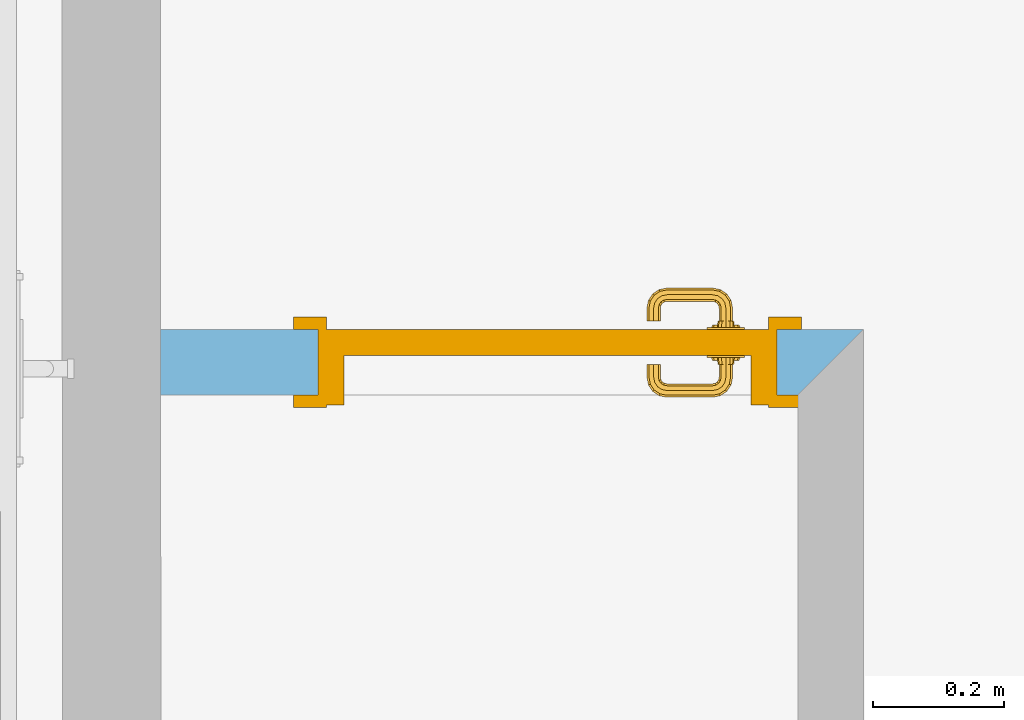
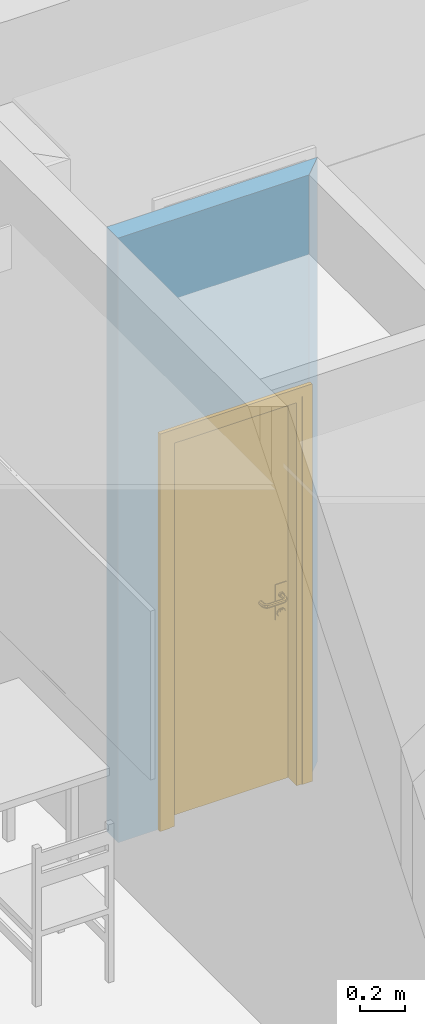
# One storey, part 59 of 194: 1 door, 1 opening, plus 1 element that does not belong to this part.
"""IFC2X3 building model written with IfcOpenShell, lengths in millimetres."""

from ifc_helpers import new_model, entity, si_unit, converted_unit, derived_unit, money_unit, direction, frame, origin_with_axes, origin_2d_with_axis, place, context, subcontext, project, spatial, polyline, rectangle, outline, extrude, open_shell, faceted_brep, surface_model, material, layer, layer_set, layer_usage, type_object, element, fill, save


model = new_model("IFC2X3")

# Units and contexts
model_context = context("Model", 3, precision=1e-05, world=origin_with_axes(), true_north=direction((0.0, 1.0)))
body_context = subcontext(model_context, "Body", "Model", "MODEL_VIEW")
ifc_project = project(units=[si_unit("LENGTHUNIT", "METRE", prefix="MILLI"), si_unit("AREAUNIT", "SQUARE_METRE"), si_unit("VOLUMEUNIT", "CUBIC_METRE"), converted_unit("PLANEANGLEUNIT", "DEGREE", entity("IfcPlaneAngleMeasure", 0.0174532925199), si_unit("PLANEANGLEUNIT", "RADIAN"), dimensions=[0, 0, 0, 0, 0, 0, 0]), si_unit("SOLIDANGLEUNIT", "STERADIAN"), money_unit("EUR"), converted_unit("TIMEUNIT", "Year", entity("IfcTimeMeasure", 31556926.0), si_unit("TIMEUNIT", "SECOND"), dimensions=[0, 0, 1, 0, 0, 0, 0]), si_unit("MASSUNIT", "GRAM", prefix="KILO"), si_unit("THERMODYNAMICTEMPERATUREUNIT", "DEGREE_CELSIUS"), si_unit("LUMINOUSINTENSITYUNIT", "LUMEN"), si_unit("ENERGYUNIT", "JOULE", prefix="MEGA"), derived_unit("THERMALCONDUCTANCEUNIT", [(si_unit("POWERUNIT", "WATT"), 1), (si_unit("LENGTHUNIT", "METRE"), -1), (si_unit("THERMODYNAMICTEMPERATUREUNIT", "KELVIN"), -1)]), derived_unit("SPECIFICHEATCAPACITYUNIT", [(si_unit("ENERGYUNIT", "JOULE"), 1), (si_unit("MASSUNIT", "GRAM", prefix="KILO"), -1), (si_unit("THERMODYNAMICTEMPERATUREUNIT", "KELVIN"), -1)]), derived_unit("MASSDENSITYUNIT", [(si_unit("MASSUNIT", "GRAM", prefix="KILO"), 1), (si_unit("VOLUMEUNIT", "CUBIC_METRE"), -1)])], contexts=[model_context])

# Site, building, storey
site_placement = place(None, origin_with_axes())
site = spatial("IfcSite", under=ifc_project, at=site_placement, Name="Site", CompositionType="ELEMENT")
building_placement = place(site_placement, origin_with_axes())
building = spatial("IfcBuilding", under=site, at=building_placement, Name="Building", CompositionType="ELEMENT")
storey_placement = place(building_placement, frame((0.0, 0.0, 3000.0), z_axis=(0.0, 0.0, 1.0), x_axis=(1.0, 0.0, 0.0)))
storey = spatial("IfcBuildingStorey", under=building, at=storey_placement, Name="2 KORRUS", CompositionType="ELEMENT", Elevation=3000.0)

# Wall, opening, door
ifc_material = material(Name="Kivi -Ol.Olev Konstruktsioon")
ifc_layer = layer(ifc_material, 100.0, ventilated="UNKNOWN")
ifc_layer_set = layer_set([ifc_layer], Name="ol.olev ss 100")
ifc_layer_usage = layer_usage(ifc_layer_set, "AXIS2", "POSITIVE", -100.0)
wall_type = type_object("IfcWallType", Name="SW - 022", PredefinedType="NOTDEFINED")
wall_placement = place(storey_placement, frame((70154.145354, 38994.6064083, 0.0), z_axis=(0.0, 0.0, 1.0), x_axis=(1.0, 0.0, 0.0)))
wall = element("IfcWallStandardCase", 1, at=wall_placement, inside=storey, type_object=wall_type, material=ifc_layer_usage, Name="ol.olev ss 100", context=body_context, shape_type="SweptSolid", body=[
    extrude(outline(polyline([(0.0786475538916, -100.0), (971.875805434, -100.0), (1071.87580543, 0.0), (3.41060513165e-10, 0.0), (0.0786475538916, -100.0)])), origin_with_axes(), (0.0, 0.0, 1.0), 3250.0),
])
opening_placement = place(wall_placement, frame((590.053432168, 0.0, 0.0), z_axis=(0.0, 0.0, 1.0), x_axis=(1.0, 0.0, 0.0)))
opening = element("IfcOpeningElement", 2, at=opening_placement, cuts=wall, Name="Siseuks * Door 22", context=body_context, shape_type="SweptSolid", body=[
    extrude(rectangle(XDim=699.999999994, YDim=2100.0, at=origin_2d_with_axis()), frame((0.0, -100.0, 1050.0), z_axis=(0.0, -1.0, 0.0), x_axis=(-1.0, 0.0, 0.0)), (0.0, 0.0, -1.0), 300.000000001),
    extrude(rectangle(XDim=773.999999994, YDim=2137.0, at=origin_2d_with_axis()), frame((0.0, -100.0, 1068.5), z_axis=(0.0, -1.0, 0.0), x_axis=(-1.0, 0.0, 0.0)), (0.0, 0.0, 1.0), 100.0),
    extrude(rectangle(XDim=773.999999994, YDim=2137.0, at=origin_2d_with_axis()), frame((0.0, 0.0, 1068.5), z_axis=(0.0, 1.0, 0.0), x_axis=(-1.0, 0.0, 0.0)), (0.0, 0.0, 1.0), 100.0),
])
door_style = type_object("IfcDoorStyle", Name="SU-B231B   700×2\xa0100", ConstructionType="NOTDEFINED", OperationType="SINGLE_SWING_LEFT", ParameterTakesPrecedence=False, Sizeable=False)
door_placement = place(opening_placement, frame((-349.999999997, 0.0, 0.0), z_axis=(0.0, 0.0, 1.0), x_axis=(1.0, 0.0, 0.0)))
door = element("IfcDoor", 3, at=door_placement, inside=storey, type_object=door_style, Name="Siseuks * Door 22", OverallHeight=2100.0, OverallWidth=700.0, context=body_context, shape_type="SurfaceModel", body=[
    faceted_brep([(736.999999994, -119.0, 0.0), (686.999999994, -119.0, 0.0), (686.999999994, -100.0, 0.0), (736.999999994, -100.0, 0.0), (736.999999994, -119.0, 2137.0), (686.999999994, -119.0, 2087.0), (686.999999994, -100.0, 2087.0), (736.999999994, -100.0, 2137.0)], [[[0, 1, 2, 3]], [[0, 4, 5, 1]], [[1, 5, 6, 2]], [[3, 2, 6, 7]], [[4, 0, 3, 7]], [[5, 4, 7, 6]]]),
    faceted_brep([(-37.0, -119.0, 2137.0), (13.0, -119.0, 2087.0), (13.0, -100.0, 2087.0), (-37.0, -100.0, 2137.0), (-37.0, -119.0, 0.0), (13.0, -119.0, 0.0), (13.0, -100.0, 0.0), (-37.0, -100.0, 0.0)], [[[0, 1, 2, 3]], [[0, 4, 5, 1]], [[1, 5, 6, 2]], [[3, 2, 6, 7]], [[4, 0, 3, 7]], [[5, 4, 7, 6]]]),
    faceted_brep([(736.999999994, -119.0, 2137.0), (686.999999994, -119.0, 2087.0), (686.999999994, -100.0, 2087.0), (736.999999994, -100.0, 2137.0), (-37.0, -119.0, 2137.0), (13.0, -119.0, 2087.0), (13.0, -100.0, 2087.0), (-37.0, -100.0, 2137.0)], [[[0, 1, 2, 3]], [[0, 4, 5, 1]], [[1, 5, 6, 2]], [[3, 2, 6, 7]], [[4, 0, 3, 7]], [[5, 4, 7, 6]]]),
    faceted_brep([(736.999999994, 19.0000000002, 0.0), (736.999999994, 0.0, 0.0), (686.999999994, 0.0, 0.0), (686.999999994, 19.0000000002, 0.0), (736.999999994, 19.0000000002, 2137.0), (736.999999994, 0.0, 2137.0), (686.999999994, 0.0, 2087.0), (686.999999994, 19.0000000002, 2087.0)], [[[0, 1, 2, 3]], [[4, 5, 1, 0]], [[1, 5, 6, 2]], [[3, 2, 6, 7]], [[0, 3, 7, 4]], [[7, 6, 5, 4]]]),
    faceted_brep([(-37.0, 19.0000000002, 2137.0), (-37.0, 0.0, 2137.0), (13.0, 0.0, 2087.0), (13.0, 19.0000000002, 2087.0), (-37.0, 19.0000000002, 0.0), (-37.0, 0.0, 0.0), (13.0, 0.0, 0.0), (13.0, 19.0000000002, 0.0)], [[[0, 1, 2, 3]], [[4, 5, 1, 0]], [[1, 5, 6, 2]], [[3, 2, 6, 7]], [[0, 3, 7, 4]], [[7, 6, 5, 4]]]),
    faceted_brep([(736.999999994, 19.0000000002, 2137.0), (736.999999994, 0.0, 2137.0), (686.999999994, 0.0, 2087.0), (686.999999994, 19.0000000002, 2087.0), (-37.0, 19.0000000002, 2137.0), (-37.0, 0.0, 2137.0), (13.0, 0.0, 2087.0), (13.0, 19.0000000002, 2087.0)], [[[0, 1, 2, 3]], [[4, 5, 1, 0]], [[1, 5, 6, 2]], [[3, 2, 6, 7]], [[0, 3, 7, 4]], [[7, 6, 5, 4]]]),
    faceted_brep([(659.999999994, -40.0, 0.0), (659.999999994, -115.0, 0.0), (659.999999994, -115.0, 2060.0), (659.999999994, -40.0, 2060.0), (671.999999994, -40.0, 0.0), (671.999999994, 0.0, 0.0), (699.999999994, 0.0, 0.0), (699.999999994, -115.0, 0.0), (699.999999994, -115.0, 2060.0), (671.999999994, -40.0, 2060.0), (699.999999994, 0.0, 2060.0), (671.999999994, 0.0, 2060.0)], [[[0, 1, 2, 3]], [[4, 5, 6, 7, 1, 0]], [[1, 7, 8, 2]], [[9, 3, 2, 8, 10, 11]], [[9, 4, 0, 3]], [[11, 5, 4, 9]], [[11, 10, 6, 5]], [[6, 10, 8, 7]]]),
    faceted_brep([(28.0, -40.0, 2060.0), (28.0, 0.0, 2060.0), (0.0, 0.0, 2060.0), (0.0, -115.0, 2060.0), (40.0, -115.0, 2060.0), (40.0, -40.0, 2060.0), (28.0, -40.0, 0.0), (28.0, 0.0, 0.0), (0.0, 0.0, 0.0), (0.0, -115.0, 0.0), (40.0, -115.0, 0.0), (40.0, -40.0, 0.0)], [[[0, 1, 2, 3, 4, 5]], [[0, 6, 7, 1]], [[7, 8, 2, 1]], [[2, 8, 9, 3]], [[3, 9, 10, 4]], [[5, 4, 10, 11]], [[5, 11, 6, 0]], [[6, 11, 10, 9, 8, 7]]]),
    faceted_brep([(671.999999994, 0.0, 2072.0), (28.0, 0.0, 2072.0), (28.0, 0.0, 2060.0), (0.0, 0.0, 2060.0), (0.0, 0.0, 2100.0), (699.999999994, 0.0, 2100.0), (699.999999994, 0.0, 2060.0), (671.999999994, 0.0, 2060.0), (671.999999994, -40.0, 2072.0), (28.0, -40.0, 2072.0), (28.0, -40.0, 2060.0), (40.0, -40.0, 2060.0), (40.0, -115.0, 2060.0), (0.0, -115.0, 2060.0), (0.0, -115.0, 2100.0), (699.999999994, -115.0, 2100.0), (699.999999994, -115.0, 2060.0), (671.999999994, -40.0, 2060.0), (659.999999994, -115.0, 2060.0), (659.999999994, -40.0, 2060.0)], [[[0, 1, 2, 3, 4, 5, 6, 7]], [[0, 8, 9, 1]], [[1, 9, 10, 2]], [[10, 11, 12, 13, 3, 2]], [[4, 3, 13, 14]], [[5, 4, 14, 15]], [[6, 5, 15, 16]], [[17, 7, 6, 16, 18, 19]], [[7, 17, 8, 0]], [[10, 9, 8, 17, 19, 11]], [[19, 18, 12, 11]], [[12, 18, 16, 15, 14, 13]]]),
    faceted_brep([(650.499999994, -40.0, 1060.0), (593.499999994, -40.0, 1060.0), (593.499999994, -42.9999999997, 1060.0), (650.499999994, -42.9999999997, 1060.0), (650.499999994, -40.0, 870.0), (593.499999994, -40.0, 870.0), (593.499999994, -42.9999999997, 870.0), (650.499999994, -42.9999999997, 870.0)], [[[0, 1, 2, 3]], [[0, 4, 5, 1]], [[1, 5, 6, 2]], [[3, 2, 6, 7]], [[4, 0, 3, 7]], [[5, 4, 7, 6]]]),
    surface_model("IfcShellBasedSurfaceModel", [(611.999999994, -52.9999999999, 1000.0), (614.928932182, -52.9999999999, 992.928932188), (614.928932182, -72.3035606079, 992.928932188), (611.999999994, -72.0150859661, 1000.0), (621.999999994, -52.9999999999, 990.0), (621.999999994, -73.0000000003, 990.0), (613.816790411, -77.8946748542, 992.928932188), (611.057796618, -76.7518622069, 1000.0), (614.928932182, -52.9999999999, 1007.07106781), (614.928932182, -72.3035606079, 1007.07106781), (629.071067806, -52.9999999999, 992.928932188), (629.071067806, -73.6964393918, 992.928932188), (620.477590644, -80.6536686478, 990.0), (611.044179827, -82.0441798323, 992.928932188), (608.932537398, -79.9325374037, 1000.0), (613.816790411, -77.8946748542, 1007.07106781), (621.999999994, -52.9999999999, 1010.0), (621.999999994, -73.0000000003, 1010.0), (631.999999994, -52.9999999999, 1000.0), (631.999999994, -73.9849140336, 1000.0), (627.138390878, -83.4126624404, 992.928932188), (616.142135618, -87.1421356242, 990.0), (606.894674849, -84.8167904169, 992.928932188), (605.751862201, -82.0577966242, 1000.0), (611.044179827, -82.0441798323, 1007.07106781), (620.477590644, -80.6536686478, 1010.0), (629.071067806, -52.9999999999, 1007.07106781), (629.071067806, -73.6964393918, 1007.07106781), (629.89738467, -84.5554750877, 1000.0), (621.240091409, -92.2400914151, 992.928932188), (609.653668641, -91.4775906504, 990.0), (601.303560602, -85.9289321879, 992.928932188), (601.015085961, -82.9999999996, 1000.0), (606.894674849, -84.8167904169, 1007.07106781), (616.142135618, -87.1421356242, 1010.0), (627.138390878, -83.4126624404, 1007.07106781), (623.351733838, -94.3517338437, 1000.0), (612.412662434, -98.1383908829, 992.928932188), (601.999999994, -92.9999999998, 990.0), (532.696439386, -85.9289321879, 992.928932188), (532.984914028, -82.9999999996, 1000.0), (601.303560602, -85.9289321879, 1007.07106781), (609.653668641, -91.4775906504, 1010.0), (621.240091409, -92.2400914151, 1007.07106781), (613.555475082, -100.897384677, 1000.0), (602.696439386, -100.071067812, 992.928932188), (531.999999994, -92.9999999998, 990.0), (527.10532514, -84.8167904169, 992.928932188), (528.248137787, -82.0577966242, 1000.0), (532.696439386, -85.9289321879, 1007.07106781), (601.999999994, -92.9999999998, 1010.0), (612.412662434, -98.1383908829, 1007.07106781), (602.984914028, -103.0, 1000.0), (531.303560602, -100.071067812, 992.928932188), (524.346331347, -91.4775906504, 990.0), (522.955820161, -82.0441798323, 992.928932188), (525.067462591, -79.9325374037, 1000.0), (527.10532514, -84.8167904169, 1007.07106781), (531.999999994, -92.9999999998, 1010.0), (602.696439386, -100.071067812, 1007.07106781), (531.015085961, -103.0, 1000.0), (521.587337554, -98.1383908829, 992.928932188), (517.85786437, -87.1421356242, 990.0), (520.183209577, -77.8946748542, 992.928932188), (522.94220337, -76.7518622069, 1000.0), (522.955820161, -82.0441798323, 1007.07106781), (524.346331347, -91.4775906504, 1010.0), (531.303560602, -100.071067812, 1007.07106781), (520.444524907, -100.897384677, 1000.0), (512.759908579, -92.2400914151, 992.928932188), (513.522409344, -80.6536686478, 990.0), (519.071067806, -72.3035606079, 992.928932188), (521.999999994, -72.0150859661, 1000.0), (520.183209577, -77.8946748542, 1007.07106781), (517.85786437, -87.1421356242, 1010.0), (521.587337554, -98.1383908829, 1007.07106781), (510.64826615, -94.3517338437, 1000.0), (506.861609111, -83.4126624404, 992.928932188), (511.999999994, -73.0000000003, 990.0), (519.071067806, -52.9999999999, 992.928932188), (521.999999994, -52.9999999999, 1000.0), (519.071067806, -72.3035606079, 1007.07106781), (513.522409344, -80.6536686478, 1010.0), (512.759908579, -92.2400914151, 1007.07106781), (504.102615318, -84.5554750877, 1000.0), (504.928932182, -73.6964393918, 992.928932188), (511.999999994, -52.9999999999, 990.0), (504.928932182, -52.9999999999, 992.928932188), (501.999999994, -52.9999999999, 1000.0), (504.928932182, -52.9999999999, 1007.07106781), (511.999999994, -52.9999999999, 1010.0), (519.071067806, -52.9999999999, 1007.07106781), (511.999999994, -73.0000000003, 1010.0), (506.861609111, -83.4126624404, 1007.07106781), (501.999999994, -73.9849140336, 1000.0), (504.928932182, -73.6964393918, 1007.07106781)], [open_shell([[[0, 1, 2, 3]], [[1, 4, 5, 2]], [[3, 2, 6, 7]], [[8, 0, 3, 9]], [[4, 10, 11, 5]], [[2, 5, 12, 6]], [[7, 6, 13, 14]], [[9, 3, 7, 15]], [[16, 8, 9, 17]], [[10, 18, 19, 11]], [[5, 11, 20, 12]], [[6, 12, 21, 13]], [[14, 13, 22, 23]], [[15, 7, 14, 24]], [[17, 9, 15, 25]], [[26, 16, 17, 27]], [[18, 26, 27, 19]], [[11, 19, 28, 20]], [[12, 20, 29, 21]], [[13, 21, 30, 22]], [[23, 22, 31, 32]], [[24, 14, 23, 33]], [[25, 15, 24, 34]], [[27, 17, 25, 35]], [[19, 27, 35, 28]], [[20, 28, 36, 29]], [[21, 29, 37, 30]], [[22, 30, 38, 31]], [[32, 31, 39, 40]], [[33, 23, 32, 41]], [[34, 24, 33, 42]], [[35, 25, 34, 43]], [[28, 35, 43, 36]], [[29, 36, 44, 37]], [[30, 37, 45, 38]], [[31, 38, 46, 39]], [[40, 39, 47, 48]], [[41, 32, 40, 49]], [[42, 33, 41, 50]], [[43, 34, 42, 51]], [[36, 43, 51, 44]], [[37, 44, 52, 45]], [[38, 45, 53, 46]], [[39, 46, 54, 47]], [[48, 47, 55, 56]], [[49, 40, 48, 57]], [[50, 41, 49, 58]], [[51, 42, 50, 59]], [[44, 51, 59, 52]], [[45, 52, 60, 53]], [[46, 53, 61, 54]], [[47, 54, 62, 55]], [[56, 55, 63, 64]], [[57, 48, 56, 65]], [[58, 49, 57, 66]], [[59, 50, 58, 67]], [[52, 59, 67, 60]], [[53, 60, 68, 61]], [[54, 61, 69, 62]], [[55, 62, 70, 63]], [[64, 63, 71, 72]], [[65, 56, 64, 73]], [[66, 57, 65, 74]], [[67, 58, 66, 75]], [[60, 67, 75, 68]], [[61, 68, 76, 69]], [[62, 69, 77, 70]], [[63, 70, 78, 71]], [[72, 71, 79, 80]], [[73, 64, 72, 81]], [[74, 65, 73, 82]], [[75, 66, 74, 83]], [[68, 75, 83, 76]], [[69, 76, 84, 77]], [[70, 77, 85, 78]], [[71, 78, 86, 79]], [[80, 79, 86, 87, 88, 89, 90, 91]], [[81, 72, 80, 91]], [[82, 73, 81, 92]], [[83, 74, 82, 93]], [[76, 83, 93, 84]], [[77, 84, 94, 85]], [[78, 85, 87, 86]], [[85, 94, 88, 87]], [[94, 95, 89, 88]], [[95, 92, 90, 89]], [[92, 81, 91, 90]], [[93, 82, 92, 95]], [[84, 93, 95, 94]]])]),
    faceted_brep([(611.607695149, -52.9999999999, 994.0), (609.999999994, -52.9999999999, 1000.0), (608.999999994, -42.9999999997, 1000.0), (610.741669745, -42.9999999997, 993.5), (615.999999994, -52.9999999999, 989.607695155), (621.999999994, -52.9999999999, 988.0), (627.999999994, -52.9999999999, 989.607695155), (632.39230484, -52.9999999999, 994.0), (633.999999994, -52.9999999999, 1000.0), (632.39230484, -52.9999999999, 1006.0), (627.999999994, -52.9999999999, 1010.39230485), (621.999999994, -52.9999999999, 1012.0), (615.999999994, -52.9999999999, 1010.39230485), (611.607695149, -52.9999999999, 1006.0), (610.741669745, -42.9999999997, 1006.5), (615.499999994, -42.9999999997, 1011.25833025), (621.999999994, -42.9999999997, 1013.0), (628.499999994, -42.9999999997, 1011.25833025), (633.258330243, -42.9999999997, 1006.5), (634.999999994, -42.9999999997, 1000.0), (633.258330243, -42.9999999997, 993.5), (628.499999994, -42.9999999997, 988.741669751), (621.999999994, -42.9999999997, 987.0), (615.499999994, -42.9999999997, 988.741669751)], [[[0, 1, 2, 3]], [[1, 0, 4, 5, 6, 7, 8, 9, 10, 11, 12, 13]], [[1, 13, 14, 2]], [[2, 14, 15, 16, 17, 18, 19, 20, 21, 22, 23, 3]], [[4, 0, 3, 23]], [[5, 4, 23, 22]], [[6, 5, 22, 21]], [[7, 6, 21, 20]], [[8, 7, 20, 19]], [[9, 8, 19, 18]], [[10, 9, 18, 17]], [[11, 10, 17, 16]], [[12, 11, 16, 15]], [[13, 12, 15, 14]]]),
    faceted_brep([(604.679491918, -46.9999999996, 895.0), (601.999999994, -46.9999999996, 905.0), (599.999999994, -42.9999999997, 905.0), (602.947441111, -42.9999999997, 894.0), (611.999999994, -46.9999999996, 887.679491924), (621.999999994, -46.9999999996, 885.0), (631.999999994, -46.9999999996, 887.679491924), (639.32050807, -46.9999999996, 895.0), (641.999999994, -46.9999999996, 905.0), (639.32050807, -46.9999999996, 915.0), (631.999999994, -46.9999999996, 922.320508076), (621.999999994, -46.9999999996, 925.0), (611.999999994, -46.9999999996, 922.320508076), (604.679491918, -46.9999999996, 915.0), (602.947441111, -42.9999999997, 916.0), (610.999999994, -42.9999999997, 924.052558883), (621.999999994, -42.9999999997, 927.0), (632.999999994, -42.9999999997, 924.052558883), (641.052558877, -42.9999999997, 916.0), (643.999999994, -42.9999999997, 905.0), (641.052558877, -42.9999999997, 894.0), (632.999999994, -42.9999999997, 885.947441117), (621.999999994, -42.9999999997, 883.0), (610.999999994, -42.9999999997, 885.947441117)], [[[0, 1, 2, 3]], [[1, 0, 4, 5, 6, 7, 8, 9, 10, 11, 12, 13]], [[1, 13, 14, 2]], [[2, 14, 15, 16, 17, 18, 19, 20, 21, 22, 23, 3]], [[4, 0, 3, 23]], [[5, 4, 23, 22]], [[6, 5, 22, 21]], [[7, 6, 21, 20]], [[8, 7, 20, 19]], [[9, 8, 19, 18]], [[10, 9, 18, 17]], [[11, 10, 17, 16]], [[12, 11, 16, 15]], [[13, 12, 15, 14]]]),
    faceted_brep([(617.050252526, -49.0, 909.050252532), (614.999999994, -49.0, 914.0), (613.999999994, -46.9999999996, 914.0), (616.343145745, -46.9999999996, 908.343145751), (621.999999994, -49.0, 907.0), (626.949747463, -49.0, 909.050252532), (628.999999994, -49.0, 914.0), (626.949747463, -49.0, 918.949747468), (621.999999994, -49.0, 921.0), (617.050252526, -49.0, 918.949747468), (616.343145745, -46.9999999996, 919.656854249), (621.999999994, -46.9999999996, 922.0), (627.656854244, -46.9999999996, 919.656854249), (629.999999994, -46.9999999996, 914.0), (627.656854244, -46.9999999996, 908.343145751), (621.999999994, -46.9999999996, 906.0)], [[[0, 1, 2, 3]], [[1, 0, 4, 5, 6, 7, 8, 9]], [[1, 9, 10, 2]], [[2, 10, 11, 12, 13, 14, 15, 3]], [[4, 0, 3, 15]], [[5, 4, 15, 14]], [[6, 5, 14, 13]], [[7, 6, 13, 12]], [[8, 7, 12, 11]], [[9, 8, 11, 10]]]),
    faceted_brep([(650.499999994, 0.0, 1060.0), (650.499999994, 2.9999999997, 1060.0), (593.499999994, 2.9999999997, 1060.0), (593.499999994, 0.0, 1060.0), (650.499999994, 0.0, 870.0), (650.499999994, 2.9999999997, 870.0), (593.499999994, 2.9999999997, 870.0), (593.499999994, 0.0, 870.0)], [[[0, 1, 2, 3]], [[4, 5, 1, 0]], [[1, 5, 6, 2]], [[3, 2, 6, 7]], [[0, 3, 7, 4]], [[7, 6, 5, 4]]]),
    surface_model("IfcShellBasedSurfaceModel", [(611.999999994, 12.9999999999, 1000.0), (611.999999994, 32.0150859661, 1000.0), (614.928932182, 32.3035606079, 992.928932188), (614.928932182, 12.9999999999, 992.928932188), (614.928932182, 12.9999999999, 1007.07106781), (614.928932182, 32.3035606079, 1007.07106781), (611.057796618, 36.751862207, 1000.0), (613.816790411, 37.8946748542, 992.928932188), (621.999999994, 33.0000000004, 990.0), (621.999999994, 12.9999999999, 990.0), (621.999999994, 12.9999999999, 1010.0), (621.999999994, 33.0000000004, 1010.0), (613.816790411, 37.8946748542, 1007.07106781), (608.932537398, 39.9325374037, 1000.0), (611.044179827, 42.0441798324, 992.928932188), (620.477590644, 40.6536686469, 990.0), (629.071067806, 33.6964393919, 992.928932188), (629.071067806, 12.9999999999, 992.928932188), (629.071067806, 12.9999999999, 1007.07106781), (629.071067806, 33.6964393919, 1007.07106781), (620.477590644, 40.6536686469, 1010.0), (611.044179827, 42.0441798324, 1007.07106781), (605.751862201, 42.0577966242, 1000.0), (606.894674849, 44.8167904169, 992.928932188), (616.142135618, 47.1421356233, 990.0), (627.138390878, 43.4126624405, 992.928932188), (631.999999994, 33.9849140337, 1000.0), (631.999999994, 12.9999999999, 1000.0), (627.138390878, 43.4126624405, 1007.07106781), (616.142135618, 47.1421356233, 1010.0), (606.894674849, 44.8167904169, 1007.07106781), (601.015085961, 42.9999999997, 1000.0), (601.303560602, 45.928932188, 992.928932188), (609.653668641, 51.4775906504, 990.0), (621.240091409, 52.2400914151, 992.928932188), (629.89738467, 44.5554750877, 1000.0), (621.240091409, 52.2400914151, 1007.07106781), (609.653668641, 51.4775906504, 1010.0), (601.303560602, 45.928932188, 1007.07106781), (532.984914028, 42.9999999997, 1000.0), (532.696439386, 45.928932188, 992.928932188), (601.999999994, 52.9999999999, 990.0), (612.412662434, 58.138390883, 992.928932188), (623.351733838, 54.3517338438, 1000.0), (612.412662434, 58.138390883, 1007.07106781), (601.999999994, 52.9999999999, 1010.0), (532.696439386, 45.928932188, 1007.07106781), (528.248137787, 42.0577966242, 1000.0), (527.10532514, 44.8167904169, 992.928932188), (531.999999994, 52.9999999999, 990.0), (602.696439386, 60.0710678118, 992.928932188), (613.555475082, 60.8973846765, 1000.0), (602.696439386, 60.0710678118, 1007.07106781), (531.999999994, 52.9999999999, 1010.0), (527.10532514, 44.8167904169, 1007.07106781), (525.067462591, 39.9325374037, 1000.0), (522.955820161, 42.0441798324, 992.928932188), (524.346331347, 51.4775906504, 990.0), (531.303560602, 60.0710678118, 992.928932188), (602.984914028, 63.0000000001, 1000.0), (531.303560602, 60.0710678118, 1007.07106781), (524.346331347, 51.4775906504, 1010.0), (522.955820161, 42.0441798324, 1007.07106781), (522.94220337, 36.751862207, 1000.0), (520.183209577, 37.8946748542, 992.928932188), (517.85786437, 47.1421356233, 990.0), (521.587337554, 58.138390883, 992.928932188), (531.015085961, 63.0000000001, 1000.0), (521.587337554, 58.138390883, 1007.07106781), (517.85786437, 47.1421356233, 1010.0), (520.183209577, 37.8946748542, 1007.07106781), (521.999999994, 32.0150859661, 1000.0), (519.071067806, 32.3035606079, 992.928932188), (513.522409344, 40.6536686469, 990.0), (512.759908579, 52.2400914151, 992.928932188), (520.444524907, 60.8973846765, 1000.0), (512.759908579, 52.2400914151, 1007.07106781), (513.522409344, 40.6536686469, 1010.0), (519.071067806, 32.3035606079, 1007.07106781), (521.999999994, 12.9999999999, 1000.0), (519.071067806, 12.9999999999, 992.928932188), (511.999999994, 33.0000000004, 990.0), (506.861609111, 43.4126624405, 992.928932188), (510.64826615, 54.3517338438, 1000.0), (506.861609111, 43.4126624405, 1007.07106781), (511.999999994, 33.0000000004, 1010.0), (519.071067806, 12.9999999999, 1007.07106781), (511.999999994, 12.9999999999, 1010.0), (504.928932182, 12.9999999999, 1007.07106781), (501.999999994, 12.9999999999, 1000.0), (504.928932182, 12.9999999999, 992.928932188), (511.999999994, 12.9999999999, 990.0), (504.928932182, 33.6964393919, 992.928932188), (504.102615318, 44.5554750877, 1000.0), (504.928932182, 33.6964393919, 1007.07106781), (501.999999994, 33.9849140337, 1000.0)], [open_shell([[[0, 1, 2, 3]], [[4, 5, 1, 0]], [[1, 6, 7, 2]], [[3, 2, 8, 9]], [[10, 11, 5, 4]], [[5, 12, 6, 1]], [[6, 13, 14, 7]], [[2, 7, 15, 8]], [[9, 8, 16, 17]], [[18, 19, 11, 10]], [[11, 20, 12, 5]], [[12, 21, 13, 6]], [[13, 22, 23, 14]], [[7, 14, 24, 15]], [[8, 15, 25, 16]], [[17, 16, 26, 27]], [[27, 26, 19, 18]], [[19, 28, 20, 11]], [[20, 29, 21, 12]], [[21, 30, 22, 13]], [[22, 31, 32, 23]], [[14, 23, 33, 24]], [[15, 24, 34, 25]], [[16, 25, 35, 26]], [[26, 35, 28, 19]], [[28, 36, 29, 20]], [[29, 37, 30, 21]], [[30, 38, 31, 22]], [[31, 39, 40, 32]], [[23, 32, 41, 33]], [[24, 33, 42, 34]], [[25, 34, 43, 35]], [[35, 43, 36, 28]], [[36, 44, 37, 29]], [[37, 45, 38, 30]], [[38, 46, 39, 31]], [[39, 47, 48, 40]], [[32, 40, 49, 41]], [[33, 41, 50, 42]], [[34, 42, 51, 43]], [[43, 51, 44, 36]], [[44, 52, 45, 37]], [[45, 53, 46, 38]], [[46, 54, 47, 39]], [[47, 55, 56, 48]], [[40, 48, 57, 49]], [[41, 49, 58, 50]], [[42, 50, 59, 51]], [[51, 59, 52, 44]], [[52, 60, 53, 45]], [[53, 61, 54, 46]], [[54, 62, 55, 47]], [[55, 63, 64, 56]], [[48, 56, 65, 57]], [[49, 57, 66, 58]], [[50, 58, 67, 59]], [[59, 67, 60, 52]], [[60, 68, 61, 53]], [[61, 69, 62, 54]], [[62, 70, 63, 55]], [[63, 71, 72, 64]], [[56, 64, 73, 65]], [[57, 65, 74, 66]], [[58, 66, 75, 67]], [[67, 75, 68, 60]], [[68, 76, 69, 61]], [[69, 77, 70, 62]], [[70, 78, 71, 63]], [[71, 79, 80, 72]], [[64, 72, 81, 73]], [[65, 73, 82, 74]], [[66, 74, 83, 75]], [[75, 83, 76, 68]], [[76, 84, 77, 69]], [[77, 85, 78, 70]], [[78, 86, 79, 71]], [[79, 86, 87, 88, 89, 90, 91, 80]], [[72, 80, 91, 81]], [[73, 81, 92, 82]], [[74, 82, 93, 83]], [[83, 93, 84, 76]], [[84, 94, 85, 77]], [[85, 87, 86, 78]], [[94, 88, 87, 85]], [[95, 89, 88, 94]], [[92, 90, 89, 95]], [[81, 91, 90, 92]], [[82, 92, 95, 93]], [[93, 95, 94, 84]]])]),
    faceted_brep([(611.607695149, 12.9999999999, 994.0), (610.741669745, 2.9999999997, 993.5), (608.999999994, 2.9999999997, 1000.0), (609.999999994, 12.9999999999, 1000.0), (615.999999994, 12.9999999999, 989.607695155), (615.499999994, 2.9999999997, 988.741669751), (621.999999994, 2.9999999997, 987.0), (628.499999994, 2.9999999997, 988.741669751), (633.258330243, 2.9999999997, 993.5), (634.999999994, 2.9999999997, 1000.0), (633.258330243, 2.9999999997, 1006.5), (628.499999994, 2.9999999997, 1011.25833025), (621.999999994, 2.9999999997, 1013.0), (615.499999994, 2.9999999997, 1011.25833025), (610.741669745, 2.9999999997, 1006.5), (611.607695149, 12.9999999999, 1006.0), (615.999999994, 12.9999999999, 1010.39230485), (621.999999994, 12.9999999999, 1012.0), (627.999999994, 12.9999999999, 1010.39230485), (632.39230484, 12.9999999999, 1006.0), (633.999999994, 12.9999999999, 1000.0), (632.39230484, 12.9999999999, 994.0), (627.999999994, 12.9999999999, 989.607695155), (621.999999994, 12.9999999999, 988.0)], [[[0, 1, 2, 3]], [[4, 5, 1, 0]], [[2, 1, 5, 6, 7, 8, 9, 10, 11, 12, 13, 14]], [[3, 2, 14, 15]], [[3, 15, 16, 17, 18, 19, 20, 21, 22, 23, 4, 0]], [[23, 6, 5, 4]], [[22, 7, 6, 23]], [[21, 8, 7, 22]], [[20, 9, 8, 21]], [[19, 10, 9, 20]], [[18, 11, 10, 19]], [[17, 12, 11, 18]], [[16, 13, 12, 17]], [[15, 14, 13, 16]]]),
    faceted_brep([(604.679491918, 6.99999999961, 895.0), (602.947441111, 2.9999999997, 894.0), (599.999999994, 2.9999999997, 905.0), (601.999999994, 6.99999999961, 905.0), (611.999999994, 6.99999999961, 887.679491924), (610.999999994, 2.9999999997, 885.947441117), (621.999999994, 2.9999999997, 883.0), (632.999999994, 2.9999999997, 885.947441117), (641.052558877, 2.9999999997, 894.0), (643.999999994, 2.9999999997, 905.0), (641.052558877, 2.9999999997, 916.0), (632.999999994, 2.9999999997, 924.052558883), (621.999999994, 2.9999999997, 927.0), (610.999999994, 2.9999999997, 924.052558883), (602.947441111, 2.9999999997, 916.0), (604.679491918, 6.99999999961, 915.0), (611.999999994, 6.99999999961, 922.320508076), (621.999999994, 6.99999999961, 925.0), (631.999999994, 6.99999999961, 922.320508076), (639.32050807, 6.99999999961, 915.0), (641.999999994, 6.99999999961, 905.0), (639.32050807, 6.99999999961, 895.0), (631.999999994, 6.99999999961, 887.679491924), (621.999999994, 6.99999999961, 885.0)], [[[0, 1, 2, 3]], [[4, 5, 1, 0]], [[2, 1, 5, 6, 7, 8, 9, 10, 11, 12, 13, 14]], [[3, 2, 14, 15]], [[3, 15, 16, 17, 18, 19, 20, 21, 22, 23, 4, 0]], [[23, 6, 5, 4]], [[22, 7, 6, 23]], [[21, 8, 7, 22]], [[20, 9, 8, 21]], [[19, 10, 9, 20]], [[18, 11, 10, 19]], [[17, 12, 11, 18]], [[16, 13, 12, 17]], [[15, 14, 13, 16]]]),
    faceted_brep([(617.050252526, 9.00000000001, 909.050252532), (616.343145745, 6.99999999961, 908.343145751), (613.999999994, 6.99999999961, 914.0), (614.999999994, 9.00000000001, 914.0), (621.999999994, 9.00000000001, 907.0), (621.999999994, 6.99999999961, 906.0), (627.656854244, 6.99999999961, 908.343145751), (629.999999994, 6.99999999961, 914.0), (627.656854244, 6.99999999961, 919.656854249), (621.999999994, 6.99999999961, 922.0), (616.343145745, 6.99999999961, 919.656854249), (617.050252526, 9.00000000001, 918.949747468), (621.999999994, 9.00000000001, 921.0), (626.949747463, 9.00000000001, 918.949747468), (628.999999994, 9.00000000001, 914.0), (626.949747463, 9.00000000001, 909.050252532)], [[[0, 1, 2, 3]], [[4, 5, 1, 0]], [[2, 1, 5, 6, 7, 8, 9, 10]], [[3, 2, 10, 11]], [[3, 11, 12, 13, 14, 15, 4, 0]], [[15, 6, 5, 4]], [[14, 7, 6, 15]], [[13, 8, 7, 14]], [[12, 9, 8, 13]], [[11, 10, 9, 12]]]),
    faceted_brep([(28.0, 0.0, 0.0), (671.999999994, 0.0, 0.0), (671.999999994, -40.0, 0.0), (28.0, -40.0, 0.0), (28.0, 0.0, 2072.0), (671.999999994, 0.0, 2072.0), (671.999999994, -40.0, 2072.0), (28.0, -40.0, 2072.0)], [[[0, 1, 2, 3]], [[0, 4, 5, 1]], [[1, 5, 6, 2]], [[3, 2, 6, 7]], [[4, 0, 3, 7]], [[5, 4, 7, 6]]]),
])
fill(opening, door)

save(model, "model.ifc")
